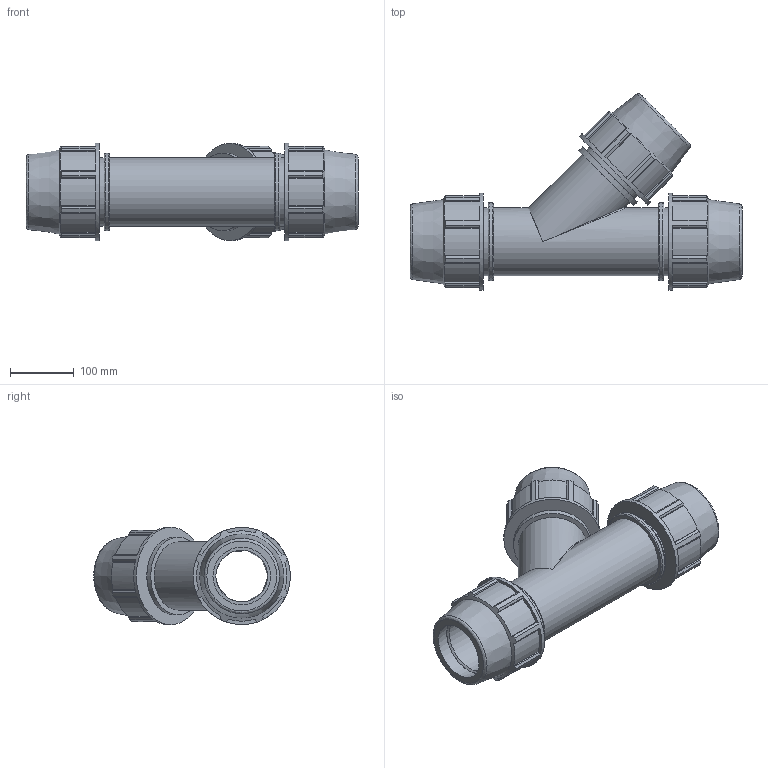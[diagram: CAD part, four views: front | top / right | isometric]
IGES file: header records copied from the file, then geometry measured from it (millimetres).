
Global section: file name: 876400090_186400090.ipt; native system: Autodesk Inventor 2015; preprocessor: unknown; author: KIM; date: 20170608.042750; units: millimetre
Bounding box: 519 x 307.54 x 152 mm (x, y, z)
Volume: 3970993 mm3; surface area: 542016.8 mm2
Topology: 1 solids, 1 shells, 200 faces, 569 edges, 381 vertices
Faces by surface type: plane 139, cylinder 36, revolution 17, cone 6, bspline 2
Full cylindrical faces by diameter (mm): 106.4 x5, 121.6 x3, 152 x3
